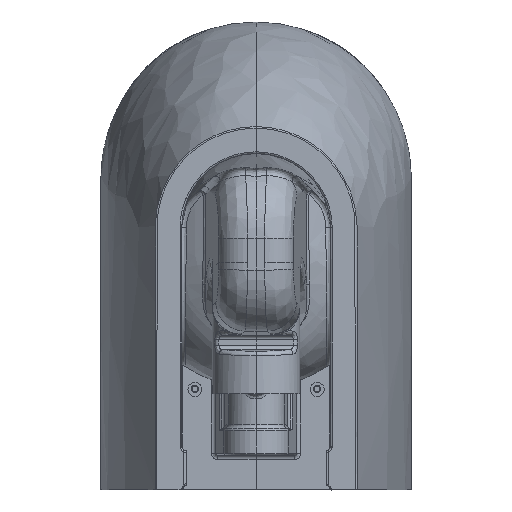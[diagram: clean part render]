
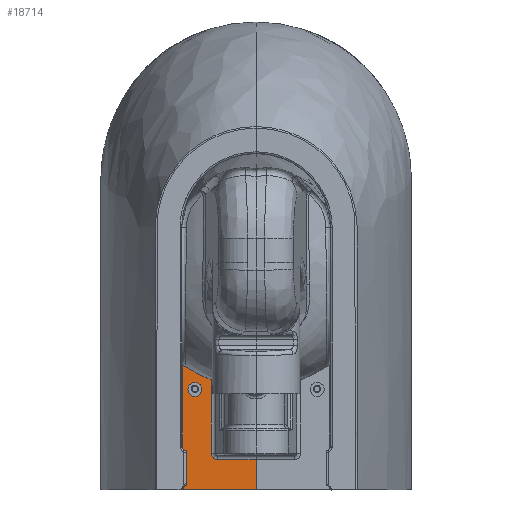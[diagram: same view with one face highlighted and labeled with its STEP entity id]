
A CAD part, front view. The second image highlights one B-rep face of the part: STEP entity #18714.
In plain terms, the highlighted planar face has unit normal (0, -1, 0).
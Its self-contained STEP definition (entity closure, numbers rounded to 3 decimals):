
#629 = CARTESIAN_POINT ( 'NONE',  ( -51.09, -10., -276.101 ) ) ;
#2279 = DIRECTION ( 'NONE',  ( -1., 0., 0. ) ) ;
#3221 = CARTESIAN_POINT ( 'NONE',  ( -109.834, -10., -313. ) ) ;
#3325 = B_SPLINE_CURVE_WITH_KNOTS ( 'NONE', 3,
 ( #97861, #61933, #137956, #45804, #88395, #151610 ),
 .UNSPECIFIED., .F., .F.,
 ( 4, 2, 4 ),
 ( 0., 0.081, 0.162 ),
 .UNSPECIFIED. ) ;
#5780 = PLANE ( 'NONE',  #103478 ) ;
#6142 = ORIENTED_EDGE ( 'NONE', *, *, #145646, .F. ) ;
#7870 = EDGE_CURVE ( 'NONE', #161117, #161117, #163294, .T. ) ;
#10072 = ORIENTED_EDGE ( 'NONE', *, *, #86433, .T. ) ;
#11711 = CARTESIAN_POINT ( 'NONE',  ( -51.09, -10., -272. ) ) ;
#14768 = ORIENTED_EDGE ( 'NONE', *, *, #85316, .F. ) ;
#18030 = VECTOR ( 'NONE', #65767, 1000. ) ;
#18714 = ADVANCED_FACE ( 'NONE', ( #70638, #97972 ), #5780, .F. ) ;
#20842 = CARTESIAN_POINT ( 'NONE',  ( -83.539, -10., -313. ) ) ;
#22803 = CARTESIAN_POINT ( 'NONE',  ( -162.424, -10., -313. ) ) ;
#23420 = CARTESIAN_POINT ( 'NONE',  ( -162.421, -10., -314. ) ) ;
#26920 = VERTEX_POINT ( 'NONE', #153635 ) ;
#30165 = LINE ( 'NONE', #82213, #54545 ) ;
#30537 = ORIENTED_EDGE ( 'NONE', *, *, #7870, .T. ) ;
#30725 = VERTEX_POINT ( 'NONE', #158246 ) ;
#34880 = DIRECTION ( 'NONE',  ( 0., 0., 1. ) ) ;
#35331 = VERTEX_POINT ( 'NONE', #152245 ) ;
#36389 = EDGE_CURVE ( 'NONE', #35331, #159638, #102223, .T. ) ;
#38575 = CARTESIAN_POINT ( 'NONE',  ( 0., -10., -314. ) ) ;
#43789 = EDGE_CURVE ( 'NONE', #123449, #35331, #30165, .T. ) ;
#44155 = ORIENTED_EDGE ( 'NONE', *, *, #58398, .T. ) ;
#45804 = CARTESIAN_POINT ( 'NONE',  ( -83.778, -10., -259.124 ) ) ;
#45863 = CARTESIAN_POINT ( 'NONE',  ( -70., -10., -191. ) ) ;
#46029 = CARTESIAN_POINT ( 'NONE',  ( 0., -10., -26.5 ) ) ;
#46188 = CARTESIAN_POINT ( 'NONE',  ( -162.421, -10., -314. ) ) ;
#54545 = VECTOR ( 'NONE', #160766, 1000. ) ;
#54649 = CARTESIAN_POINT ( 'NONE',  ( -51.09, -10., -272. ) ) ;
#58398 = EDGE_CURVE ( 'NONE', #30725, #123449, #94019, .T. ) ;
#61933 = CARTESIAN_POINT ( 'NONE',  ( -84.051, -10., -178.311 ) ) ;
#64113 = EDGE_CURVE ( 'NONE', #159638, #87973, #3325, .T. ) ;
#65767 = DIRECTION ( 'NONE',  ( -1., 0., 0. ) ) ;
#70638 = FACE_BOUND ( 'NONE', #82935, .T. ) ;
#73703 = VERTEX_POINT ( 'NONE', #38575 ) ;
#82049 = CARTESIAN_POINT ( 'NONE',  ( -162.423, -10., -313.333 ) ) ;
#82213 = CARTESIAN_POINT ( 'NONE',  ( -51.09, -10., 43.5 ) ) ;
#82935 = EDGE_LOOP ( 'NONE', ( #30537 ) ) ;
#84568 = CARTESIAN_POINT ( 'NONE',  ( -162.424, -10., -313. ) ) ;
#85316 = EDGE_CURVE ( 'NONE', #73703, #148270, #157960, .T. ) ;
#86402 = VECTOR ( 'NONE', #2279, 1000. ) ;
#86433 = EDGE_CURVE ( 'NONE', #87973, #149114, #93520, .T. ) ;
#87973 = VERTEX_POINT ( 'NONE', #127959 ) ;
#88395 = CARTESIAN_POINT ( 'NONE',  ( -83.658, -10., -286.062 ) ) ;
#88905 = DIRECTION ( 'NONE',  ( 0., 0., 1. ) ) ;
#89677 = AXIS2_PLACEMENT_3D ( 'NONE', #152128, #140144, #88905 ) ;
#91852 = LINE ( 'NONE', #116651, #129903 ) ;
#92748 = CARTESIAN_POINT ( 'NONE',  ( 0., -10., -279. ) ) ;
#93520 = B_SPLINE_CURVE_WITH_KNOTS ( 'NONE', 3,
 ( #20842, #3221, #136957, #97693 ),
 .UNSPECIFIED., .F., .F.,
 ( 4, 4 ),
 ( 0., 1. ),
 .UNSPECIFIED. ) ;
#94019 =( BOUNDED_CURVE ( )  B_SPLINE_CURVE ( 3, ( #117576, #115021, #629, #11711 ),
 .UNSPECIFIED., .F., .F. ) 
 B_SPLINE_CURVE_WITH_KNOTS ( ( 4, 4 ),
 ( 4.712, 6.283 ),
 .UNSPECIFIED. ) 
 CURVE ( )  GEOMETRIC_REPRESENTATION_ITEM ( )  RATIONAL_B_SPLINE_CURVE ( ( 1., 0.805, 0.805, 1. ) ) 
 REPRESENTATION_ITEM ( '' )  );
#94997 = EDGE_CURVE ( 'NONE', #26920, #30725, #116713, .T. ) ;
#95443 = DIRECTION ( 'NONE',  ( 0., 0., 1. ) ) ;
#97693 = CARTESIAN_POINT ( 'NONE',  ( -162.424, -10., -313. ) ) ;
#97861 = CARTESIAN_POINT ( 'NONE',  ( -84.077, -10., -151.372 ) ) ;
#97972 = FACE_OUTER_BOUND ( 'NONE', #167399, .T. ) ;
#98482 = ORIENTED_EDGE ( 'NONE', *, *, #64113, .T. ) ;
#102223 = CIRCLE ( 'NONE', #124044, 150.539 ) ;
#103478 = AXIS2_PLACEMENT_3D ( 'NONE', #110774, #162862, #95443 ) ;
#110774 = CARTESIAN_POINT ( 'NONE',  ( 0., -10., 43.5 ) ) ;
#114878 = ORIENTED_EDGE ( 'NONE', *, *, #36389, .T. ) ;
#115021 = CARTESIAN_POINT ( 'NONE',  ( -48.146, -10., -279. ) ) ;
#116651 = CARTESIAN_POINT ( 'NONE',  ( 0., -10., 43.5 ) ) ;
#116713 = LINE ( 'NONE', #92748, #86402 ) ;
#117576 = CARTESIAN_POINT ( 'NONE',  ( -43.982, -10., -279. ) ) ;
#123114 = EDGE_CURVE ( 'NONE', #149114, #148270, #152746, .T. ) ;
#123449 = VERTEX_POINT ( 'NONE', #54649 ) ;
#124044 = AXIS2_PLACEMENT_3D ( 'NONE', #46029, #150166, #34880 ) ;
#127959 = CARTESIAN_POINT ( 'NONE',  ( -83.539, -10., -313. ) ) ;
#129565 = ORIENTED_EDGE ( 'NONE', *, *, #43789, .T. ) ;
#129903 = VECTOR ( 'NONE', #143930, 1000. ) ;
#131508 = CARTESIAN_POINT ( 'NONE',  ( 0., -10., -314. ) ) ;
#136957 = CARTESIAN_POINT ( 'NONE',  ( -136.129, -10., -313. ) ) ;
#137956 = CARTESIAN_POINT ( 'NONE',  ( -83.974, -10., -205.249 ) ) ;
#138423 = ORIENTED_EDGE ( 'NONE', *, *, #94997, .T. ) ;
#140144 = DIRECTION ( 'NONE',  ( 0., 1., 0. ) ) ;
#143930 = DIRECTION ( 'NONE',  ( 0., 0., -1. ) ) ;
#145646 = EDGE_CURVE ( 'NONE', #26920, #73703, #91852, .T. ) ;
#146953 = CARTESIAN_POINT ( 'NONE',  ( -162.422, -10., -313.667 ) ) ;
#148270 = VERTEX_POINT ( 'NONE', #23420 ) ;
#149114 = VERTEX_POINT ( 'NONE', #22803 ) ;
#150166 = DIRECTION ( 'NONE',  ( 0., 1., 0. ) ) ;
#151610 = CARTESIAN_POINT ( 'NONE',  ( -83.539, -10., -313. ) ) ;
#152128 = CARTESIAN_POINT ( 'NONE',  ( -70., -10., -199. ) ) ;
#152245 = CARTESIAN_POINT ( 'NONE',  ( -51.09, -10., -168.105 ) ) ;
#152746 = B_SPLINE_CURVE_WITH_KNOTS ( 'NONE', 3,
 ( #84568, #82049, #146953, #46188 ),
 .UNSPECIFIED., .F., .F.,
 ( 4, 4 ),
 ( 0.004, 0.005 ),
 .UNSPECIFIED. ) ;
#153635 = CARTESIAN_POINT ( 'NONE',  ( 0., -10., -279. ) ) ;
#157960 = LINE ( 'NONE', #131508, #18030 ) ;
#158246 = CARTESIAN_POINT ( 'NONE',  ( -43.982, -10., -279. ) ) ;
#159638 = VERTEX_POINT ( 'NONE', #168164 ) ;
#160766 = DIRECTION ( 'NONE',  ( 0., 0., 1. ) ) ;
#161117 = VERTEX_POINT ( 'NONE', #45863 ) ;
#162862 = DIRECTION ( 'NONE',  ( 0., 1., 0. ) ) ;
#163294 = CIRCLE ( 'NONE', #89677, 8. ) ;
#163869 = ORIENTED_EDGE ( 'NONE', *, *, #123114, .T. ) ;
#167399 = EDGE_LOOP ( 'NONE', ( #98482, #10072, #163869, #14768, #6142, #138423, #44155, #129565, #114878 ) ) ;
#168164 = CARTESIAN_POINT ( 'NONE',  ( -84.077, -10., -151.372 ) ) ;
